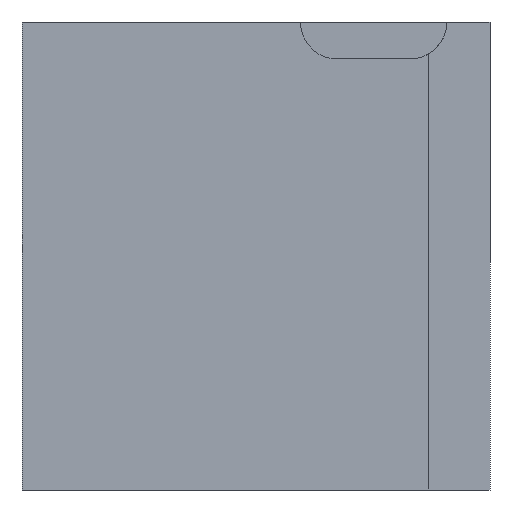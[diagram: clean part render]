
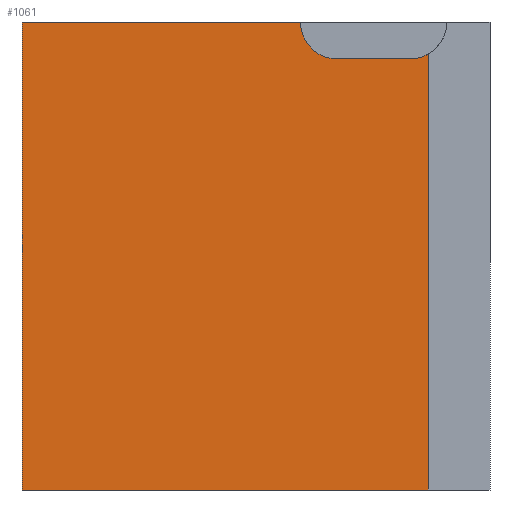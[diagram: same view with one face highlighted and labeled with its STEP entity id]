
A CAD part, front view. The second image highlights one B-rep face of the part: STEP entity #1061.
In plain terms, the highlighted planar face has unit normal (0, -1, 0).
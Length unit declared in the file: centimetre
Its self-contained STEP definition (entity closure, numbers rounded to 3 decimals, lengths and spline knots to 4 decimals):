
#10 = LINE ( 'NONE', #593, #532 ) ;
#44 = EDGE_LOOP ( 'NONE', ( #932, #1194, #1158, #655, #746, #1468, #761 ) ) ;
#51 = EDGE_CURVE ( 'NONE', #75, #1203, #271, .T. ) ;
#55 = CARTESIAN_POINT ( 'NONE',  ( 0., 0., 1000. ) ) ;
#75 = VERTEX_POINT ( 'NONE', #1247 ) ;
#89 = LINE ( 'NONE', #447, #1301 ) ;
#170 = CARTESIAN_POINT ( 'NONE',  ( 674.0578, 0., 920.9419 ) ) ;
#211 = EDGE_CURVE ( 'NONE', #754, #833, #646, .T. ) ;
#271 = LINE ( 'NONE', #462, #981 ) ;
#368 = CARTESIAN_POINT ( 'NONE',  ( 868.3561, 0., 0. ) ) ;
#381 = DIRECTION ( 'NONE',  ( 0., -1., 0. ) ) ;
#415 = FACE_OUTER_BOUND ( 'NONE', #44, .T. ) ;
#447 = CARTESIAN_POINT ( 'NONE',  ( 0., 0., 0. ) ) ;
#462 = CARTESIAN_POINT ( 'NONE',  ( 0., 0., 1000. ) ) ;
#489 = EDGE_CURVE ( 'NONE', #75, #1146, #848, .T. ) ;
#532 = VECTOR ( 'NONE', #858, 100. ) ;
#533 = PLANE ( 'NONE',  #1173 ) ;
#586 = VERTEX_POINT ( 'NONE', #1218 ) ;
#593 = CARTESIAN_POINT ( 'NONE',  ( 674.0578, 0., 920.9419 ) ) ;
#603 = CARTESIAN_POINT ( 'NONE',  ( 828.827, 0., 1000. ) ) ;
#620 = CIRCLE ( 'NONE', #894, 79.0581 ) ;
#646 = LINE ( 'NONE', #1396, #1271 ) ;
#655 = ORIENTED_EDGE ( 'NONE', *, *, #800, .F. ) ;
#658 = VERTEX_POINT ( 'NONE', #170 ) ;
#665 = DIRECTION ( 'NONE',  ( 0., 1., 0. ) ) ;
#678 = DIRECTION ( 'NONE',  ( 1., 0., 0. ) ) ;
#746 = ORIENTED_EDGE ( 'NONE', *, *, #1274, .F. ) ;
#754 = VERTEX_POINT ( 'NONE', #368 ) ;
#756 = DIRECTION ( 'NONE',  ( 0., 0., -1. ) ) ;
#761 = ORIENTED_EDGE ( 'NONE', *, *, #489, .T. ) ;
#800 = EDGE_CURVE ( 'NONE', #658, #586, #10, .T. ) ;
#804 = DIRECTION ( 'NONE',  ( 0., -1., 0. ) ) ;
#812 = CARTESIAN_POINT ( 'NONE',  ( 674.0578, 0., 1000. ) ) ;
#833 = VERTEX_POINT ( 'NONE', #1474 ) ;
#839 = DIRECTION ( 'NONE',  ( 0., 0., -1. ) ) ;
#841 = EDGE_CURVE ( 'NONE', #586, #833, #1507, .T. ) ;
#848 = LINE ( 'NONE', #1448, #1190 ) ;
#858 = DIRECTION ( 'NONE',  ( 1., 0., 0. ) ) ;
#894 = AXIS2_PLACEMENT_3D ( 'NONE', #812, #804, #927 ) ;
#927 = DIRECTION ( 'NONE',  ( 0., 0., -1. ) ) ;
#932 = ORIENTED_EDGE ( 'NONE', *, *, #1165, .T. ) ;
#953 = DIRECTION ( 'NONE',  ( 1., 0., 0. ) ) ;
#981 = VECTOR ( 'NONE', #953, 100. ) ;
#1038 = DIRECTION ( 'NONE',  ( 0., 0., 1. ) ) ;
#1056 = CARTESIAN_POINT ( 'NONE',  ( 0., 0., 0. ) ) ;
#1061 = ADVANCED_FACE ( 'NONE', ( #415 ), #533, .F. ) ;
#1146 = VERTEX_POINT ( 'NONE', #1056 ) ;
#1158 = ORIENTED_EDGE ( 'NONE', *, *, #841, .F. ) ;
#1163 = CARTESIAN_POINT ( 'NONE',  ( 594.9997, 0., 1000. ) ) ;
#1165 = EDGE_CURVE ( 'NONE', #1146, #754, #89, .T. ) ;
#1173 = AXIS2_PLACEMENT_3D ( 'NONE', #55, #665, #1038 ) ;
#1190 = VECTOR ( 'NONE', #839, 100. ) ;
#1194 = ORIENTED_EDGE ( 'NONE', *, *, #211, .T. ) ;
#1203 = VERTEX_POINT ( 'NONE', #1163 ) ;
#1218 = CARTESIAN_POINT ( 'NONE',  ( 828.827, 0., 920.9419 ) ) ;
#1247 = CARTESIAN_POINT ( 'NONE',  ( 0., 0., 1000. ) ) ;
#1270 = DIRECTION ( 'NONE',  ( 0., 0., 1. ) ) ;
#1271 = VECTOR ( 'NONE', #1270, 100. ) ;
#1274 = EDGE_CURVE ( 'NONE', #1203, #658, #620, .T. ) ;
#1301 = VECTOR ( 'NONE', #678, 100. ) ;
#1355 = AXIS2_PLACEMENT_3D ( 'NONE', #603, #381, #756 ) ;
#1396 = CARTESIAN_POINT ( 'NONE',  ( 868.3561, 0., 0. ) ) ;
#1448 = CARTESIAN_POINT ( 'NONE',  ( 0., 0., 1000. ) ) ;
#1468 = ORIENTED_EDGE ( 'NONE', *, *, #51, .F. ) ;
#1474 = CARTESIAN_POINT ( 'NONE',  ( 868.3561, 0., 931.5337 ) ) ;
#1507 = CIRCLE ( 'NONE', #1355, 79.0581 ) ;
